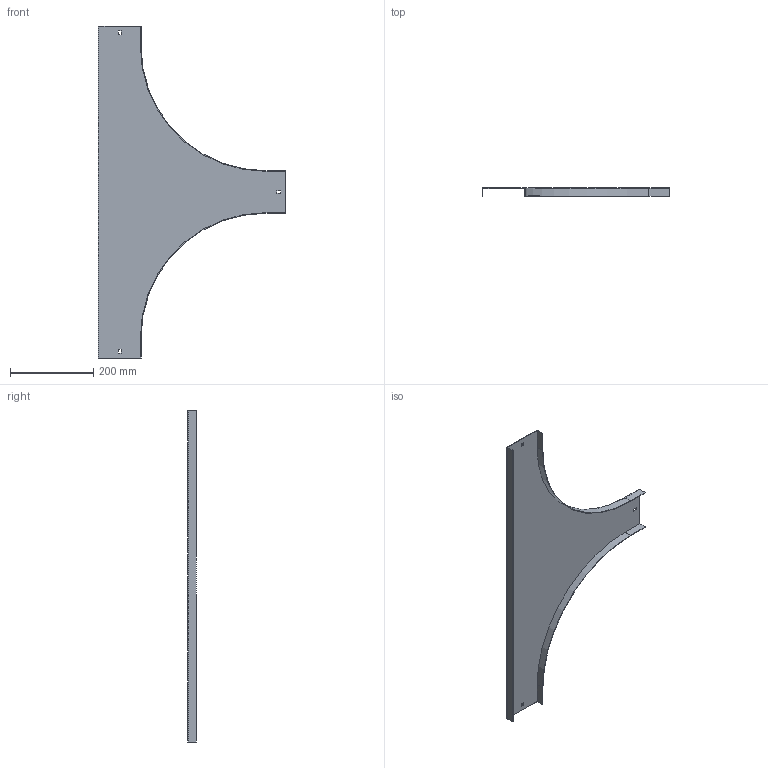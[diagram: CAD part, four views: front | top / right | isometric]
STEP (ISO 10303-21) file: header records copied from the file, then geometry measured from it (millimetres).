
FILE_DESCRIPTION (( 'STEP AP214' ), '1' );
FILE_NAME ('B2_15N3R100.step', '2025-02-21T12:06:56', ( '' ), ( '' ), 'SwSTEP 2.0', 'SolidWorks 2023', '' );
FILE_SCHEMA (( 'AUTOMOTIVE_DESIGN' ));
Length unit declared in the file: millimetre
Products named in the file (1): B2_15N3R100
Bounding box: 451.5 x 20 x 800 mm (x, y, z)
Volume: 288382.9 mm3; surface area: 388186.7 mm2
Topology: 1 solids, 1 shells, 34 faces, 96 edges, 64 vertices
Faces by surface type: plane 30, cylinder 4
Entity records: 1123 total; most frequent: CARTESIAN_POINT 195, ORIENTED_EDGE 192, DIRECTION 174, EDGE_CURVE 96, VECTOR 88, LINE 88, VERTEX_POINT 64, AXIS2_PLACEMENT_3D 43
